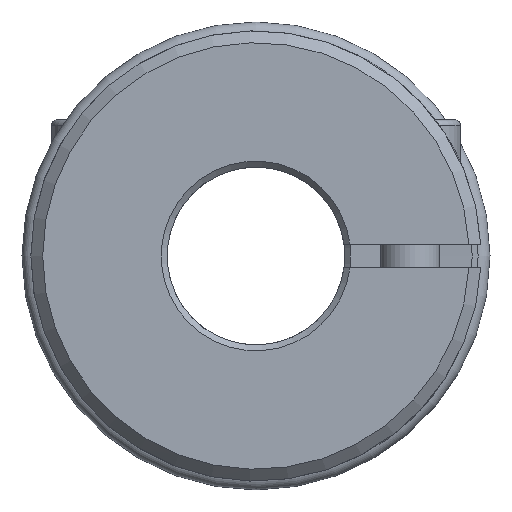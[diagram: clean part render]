
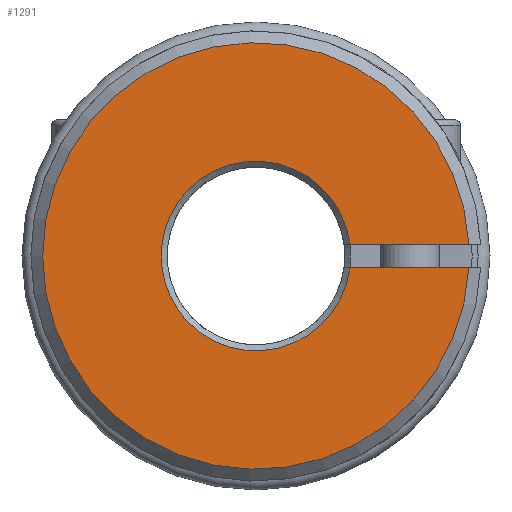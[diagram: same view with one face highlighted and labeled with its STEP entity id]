
A CAD part, left-side view. The second image highlights one B-rep face of the part: STEP entity #1291.
In plain terms, the highlighted planar face has unit normal (-1, 0, 0) as drawn and (1, 0, 0) by its records, which use the part's own axes.
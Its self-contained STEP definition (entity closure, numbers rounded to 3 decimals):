
#21=LINE('',#2317,#55);
#22=LINE('',#2321,#56);
#55=VECTOR('',#1862,1000.);
#56=VECTOR('',#1865,1000.);
#182=PLANE('',#1506);
#360=ORIENTED_EDGE('',*,*,#575,.F.);
#361=ORIENTED_EDGE('',*,*,#576,.T.);
#362=ORIENTED_EDGE('',*,*,#577,.F.);
#363=ORIENTED_EDGE('',*,*,#574,.F.);
#574=EDGE_CURVE('',#708,#707,#816,.T.);
#575=EDGE_CURVE('',#709,#708,#21,.T.);
#576=EDGE_CURVE('',#709,#710,#817,.F.);
#577=EDGE_CURVE('',#707,#710,#22,.T.);
#707=VERTEX_POINT('',#2309);
#708=VERTEX_POINT('',#2314);
#709=VERTEX_POINT('',#2318);
#710=VERTEX_POINT('',#2320);
#816=CIRCLE('',#1505,18.);
#817=CIRCLE('',#1507,8.);
#967=EDGE_LOOP('',(#360,#361,#362,#363));
#1145=FACE_BOUND('',#967,.T.);
#1291=ADVANCED_FACE('',(#1145),#182,.T.);
#1505=AXIS2_PLACEMENT_3D('',#2315,#1858,#1859);
#1506=AXIS2_PLACEMENT_3D('',#2316,#1860,#1861);
#1507=AXIS2_PLACEMENT_3D('',#2319,#1863,#1864);
#1858=DIRECTION('',(-1.,0.,0.));
#1859=DIRECTION('',(0.,0.,1.));
#1860=DIRECTION('',(1.,0.,0.));
#1861=DIRECTION('',(0.,0.,-1.));
#1862=DIRECTION('',(0.,1.,0.));
#1863=DIRECTION('',(1.,0.,0.));
#1864=DIRECTION('',(0.,0.,-1.));
#1865=DIRECTION('',(0.,-1.,0.));
#2309=CARTESIAN_POINT('',(13.,17.972,1.));
#2314=CARTESIAN_POINT('',(13.,17.972,-1.));
#2315=CARTESIAN_POINT('',(13.,0.,0.));
#2316=CARTESIAN_POINT('',(13.,0.,7.5));
#2317=CARTESIAN_POINT('',(13.,0.,-1.));
#2318=CARTESIAN_POINT('',(13.,7.937,-1.));
#2319=CARTESIAN_POINT('',(13.,0.,0.));
#2320=CARTESIAN_POINT('',(13.,7.937,1.));
#2321=CARTESIAN_POINT('',(13.,0.,1.));
